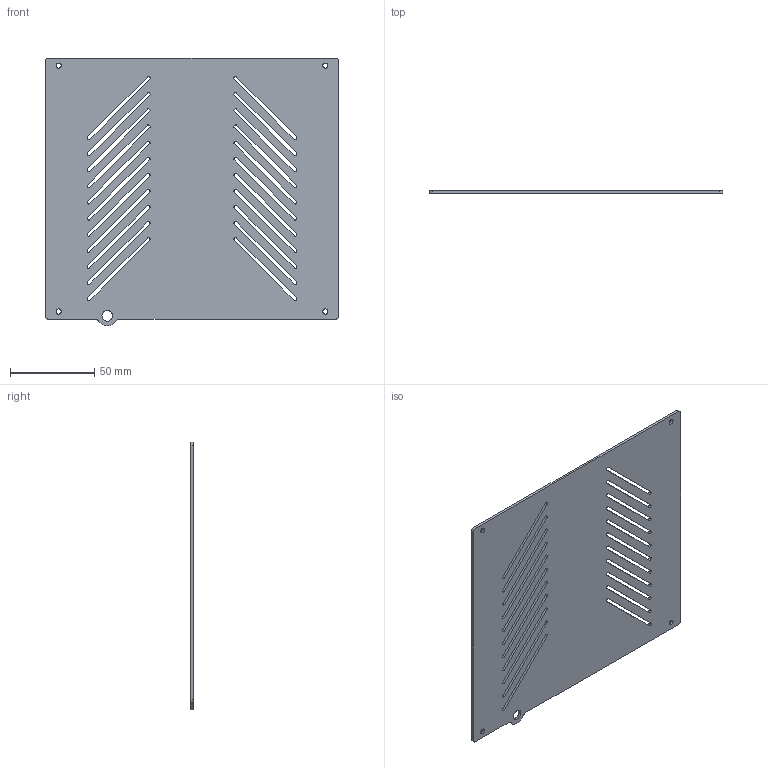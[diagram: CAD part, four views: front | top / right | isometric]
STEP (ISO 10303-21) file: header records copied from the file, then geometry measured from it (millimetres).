
FILE_DESCRIPTION (( 'STEP AP214' ), '1' );
FILE_NAME ('Electronics Box Lid.STEP', '2024-02-28T19:53:28', ( '' ), ( '' ), 'SwSTEP 2.0', 'SolidWorks 2023', '' );
FILE_SCHEMA (( 'AUTOMOTIVE_DESIGN' ));
Length unit declared in the file: millimetre
Products named in the file (1): Electronics Box Lid
Bounding box: 174 x 1.5 x 158.7 mm (x, y, z)
Volume: 36925.3 mm3; surface area: 53815.2 mm2
Topology: 1 solids, 1 shells, 134 faces, 396 edges, 264 vertices
Faces by surface type: cylinder 83, plane 51
Entity records: 4677 total; most frequent: DIRECTION 832, CARTESIAN_POINT 795, ORIENTED_EDGE 792, EDGE_CURVE 396, AXIS2_PLACEMENT_3D 301, VERTEX_POINT 264, VECTOR 230, LINE 230
